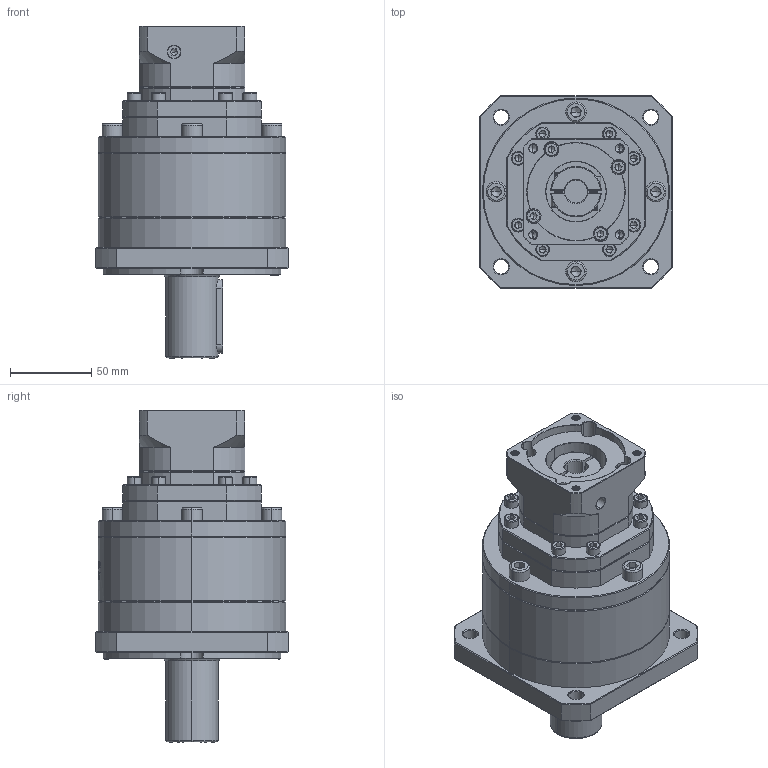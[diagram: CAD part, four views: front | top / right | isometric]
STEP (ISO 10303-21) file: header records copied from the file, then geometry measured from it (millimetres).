
FILE_DESCRIPTION (( 'STEP AP214' ), '1' );
FILE_NAME ('ZF120A-D32-L3-P2-14-60-75-M6.step', '2023-08-27T06:31:20', ( '' ), ( '' ), 'SwSTEP 2.0', 'SolidWorks 2016', '' );
FILE_SCHEMA (( 'AUTOMOTIVE_DESIGN' ));
Length unit declared in the file: millimetre
Products named in the file (1): ZF120A-D32-L3-P2-14-60-75-M6
Bounding box: 118 x 118 x 204 mm (x, y, z)
Volume: 1221127.3 mm3; surface area: 118103.7 mm2
Topology: 7 solids, 7 shells, 2362 faces, 6298 edges, 4042 vertices
Faces by surface type: plane 1179, bspline 435, cylinder 422, cone 304, torus 22
Entity records: 125860 total; most frequent: CARTESIAN_POINT 46392, ORIENTED_EDGE 12488, DIRECTION 9290, EDGE_CURVE 6244, VERTEX_POINT 4042, VECTOR 3346, LINE 3346, AXIS2_PLACEMENT_3D 2972
